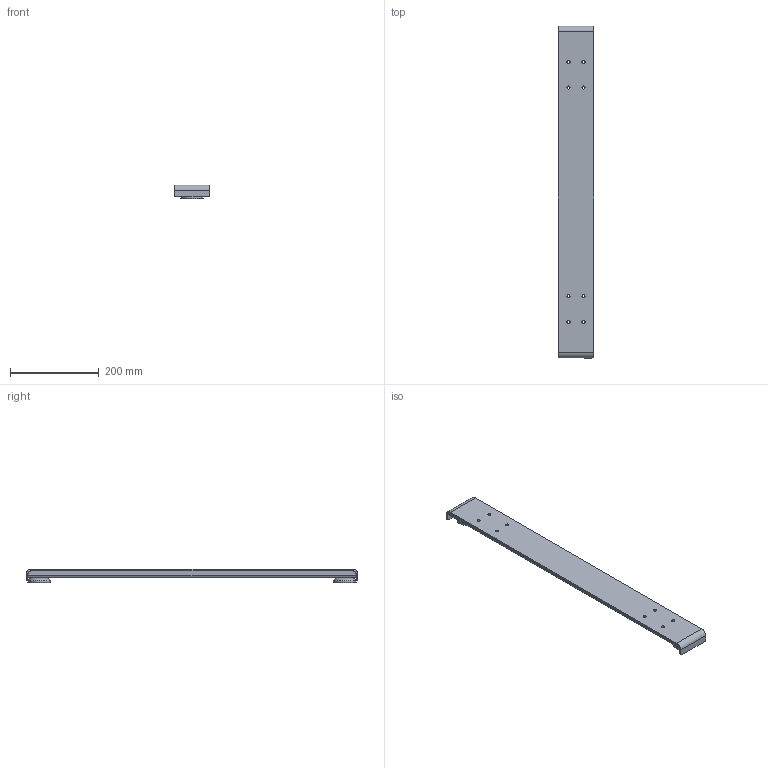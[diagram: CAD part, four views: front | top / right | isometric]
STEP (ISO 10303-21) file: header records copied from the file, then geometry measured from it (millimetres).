
FILE_DESCRIPTION(/* description */ ('Unknown'),/* implementation_level */ '2;1');
FILE_NAME(/* name */ '127.00831_00',/* time_stamp */ '2025-11-05T14:15:45+01:00',/* author */ ('Unknown'),/* organization */ ('Unknown'),/* preprocessor_version */ 'ST-DEVELOPER v20',/* originating_system */ 'Solid Edge',/* authorisation */ 'Unknown');
FILE_SCHEMA (('AUTOMOTIVE_DESIGN {1 0 10303 214 3 1 1}'));
Length unit declared in the file: millimetre
Products named in the file (4): 127.00831; EA4 Tischfuss unten; EA4 Tischfuss oben; Regulierfuss
Assembly tree (4 placements, depth 2):
  127.00831
    EA4 Tischfuss unten
    EA4 Tischfuss oben
    Regulierfuss  x2
Bounding box: 80 x 750 x 31.5 mm (x, y, z)
Volume: 571389.7 mm3; surface area: 278537.8 mm2
Topology: 4 solids, 4 shells, 275 faces, 611 edges, 354 vertices
Faces by surface type: cylinder 127, cone 88, plane 36, torus 24
Entity records: 5246 total; most frequent: DIRECTION 1003, CARTESIAN_POINT 846, ORIENTED_EDGE 830, EDGE_CURVE 415, AXIS2_PLACEMENT_3D 407, VERTEX_POINT 250, CIRCLE 226, EDGE_LOOP 217
